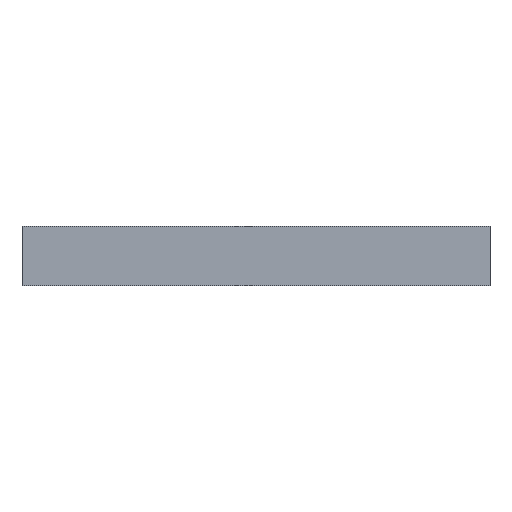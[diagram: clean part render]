
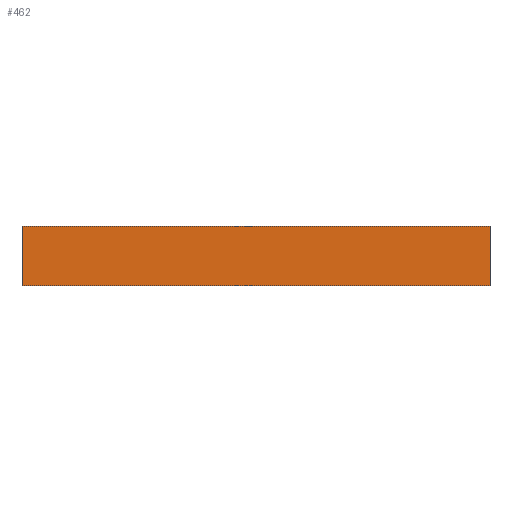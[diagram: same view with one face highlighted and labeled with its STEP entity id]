
A CAD part, front view. The second image highlights one B-rep face of the part: STEP entity #462.
In plain terms, the highlighted planar face has unit normal (0, -1, 0).
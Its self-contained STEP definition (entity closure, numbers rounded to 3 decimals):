
#49 = EDGE_CURVE ( 'NONE', #778, #791, #250, .T. ) ;
#80 = EDGE_CURVE ( 'NONE', #817, #738, #206, .T. ) ;
#83 = AXIS2_PLACEMENT_3D ( 'NONE', #632, #623, #622 ) ;
#86 = EDGE_CURVE ( 'NONE', #778, #817, #196, .T. ) ;
#107 = EDGE_CURVE ( 'NONE', #791, #738, #170, .T. ) ;
#120 = ORIENTED_EDGE ( 'NONE', *, *, #86, .T. ) ;
#128 = ORIENTED_EDGE ( 'NONE', *, *, #107, .F. ) ;
#133 = ORIENTED_EDGE ( 'NONE', *, *, #49, .F. ) ;
#138 = ORIENTED_EDGE ( 'NONE', *, *, #80, .T. ) ;
#164 = FACE_OUTER_BOUND ( 'NONE', #329, .T. ) ;
#169 = VECTOR ( 'NONE', #663, 1000. ) ;
#170 = LINE ( 'NONE', #665, #169 ) ;
#195 = VECTOR ( 'NONE', #699, 1000. ) ;
#196 = LINE ( 'NONE', #701, #195 ) ;
#205 = VECTOR ( 'NONE', #714, 1000. ) ;
#206 = LINE ( 'NONE', #716, #205 ) ;
#249 = VECTOR ( 'NONE', #781, 1000. ) ;
#250 = LINE ( 'NONE', #783, #249 ) ;
#329 = EDGE_LOOP ( 'NONE', ( #138, #128, #133, #120 ) ) ;
#462 = ADVANCED_FACE ( 'NONE', ( #164 ), #635, .F. ) ;
#507 = CARTESIAN_POINT ( 'NONE',  ( -254., 0., 0. ) ) ;
#517 = CARTESIAN_POINT ( 'NONE',  ( 254., 0., 65. ) ) ;
#521 = CARTESIAN_POINT ( 'NONE',  ( -254., 0., 65. ) ) ;
#535 = CARTESIAN_POINT ( 'NONE',  ( 254., 0., 0. ) ) ;
#622 = DIRECTION ( 'NONE',  ( -1., 0., 0. ) ) ;
#623 = DIRECTION ( 'NONE',  ( 0., 1., 0. ) ) ;
#632 = CARTESIAN_POINT ( 'NONE',  ( -254., 0., 65. ) ) ;
#635 = PLANE ( 'NONE',  #83 ) ;
#663 = DIRECTION ( 'NONE',  ( 0., 0., -1. ) ) ;
#665 = CARTESIAN_POINT ( 'NONE',  ( 254., 0., 65. ) ) ;
#699 = DIRECTION ( 'NONE',  ( 0., 0., -1. ) ) ;
#701 = CARTESIAN_POINT ( 'NONE',  ( -254., 0., 65. ) ) ;
#714 = DIRECTION ( 'NONE',  ( 1., 0., 0. ) ) ;
#716 = CARTESIAN_POINT ( 'NONE',  ( -254., 0., 0. ) ) ;
#738 = VERTEX_POINT ( 'NONE', #535 ) ;
#778 = VERTEX_POINT ( 'NONE', #521 ) ;
#781 = DIRECTION ( 'NONE',  ( 1., 0., 0. ) ) ;
#783 = CARTESIAN_POINT ( 'NONE',  ( -254., 0., 65. ) ) ;
#791 = VERTEX_POINT ( 'NONE', #517 ) ;
#817 = VERTEX_POINT ( 'NONE', #507 ) ;
